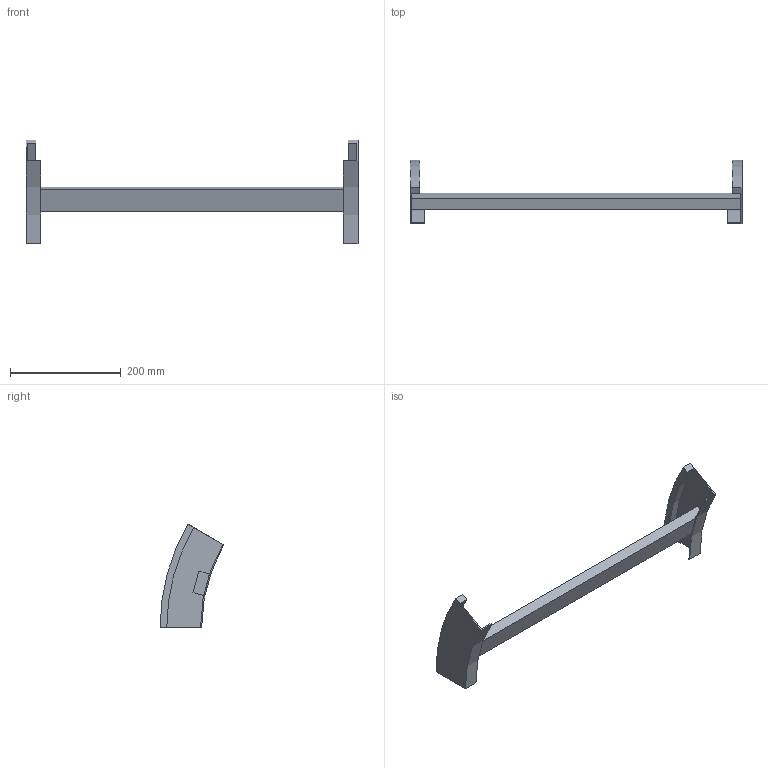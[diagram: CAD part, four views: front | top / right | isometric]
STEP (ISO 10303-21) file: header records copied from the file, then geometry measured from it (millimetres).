
FILE_DESCRIPTION (( 'STEP AP214' ), '1' );
FILE_NAME ('B2_35B3C600.step', '2025-02-21T14:50:35', ( '' ), ( '' ), 'SwSTEP 2.0', 'SolidWorks 2023', '' );
FILE_SCHEMA (( 'AUTOMOTIVE_DESIGN' ));
Length unit declared in the file: millimetre
Products named in the file (3): B2_LONGH.DISCESA_30°_H75_R300; B2_35B3C600; TRAVERSINO_600
Assembly tree (3 placements, depth 2):
  B2_35B3C600
    B2_LONGH.DISCESA_30°_H75_R300  x2
    TRAVERSINO_600
Bounding box: 600 x 115.19 x 187.5 mm (x, y, z)
Volume: 625726.6 mm3; surface area: 157857.7 mm2
Topology: 3 solids, 3 shells, 26 faces, 60 edges, 40 vertices
Faces by surface type: plane 18, cylinder 8
Entity records: 544 total; most frequent: DIRECTION 88, CARTESIAN_POINT 82, ORIENTED_EDGE 72, EDGE_CURVE 36, AXIS2_PLACEMENT_3D 30, VECTOR 28, LINE 28, VERTEX_POINT 24
